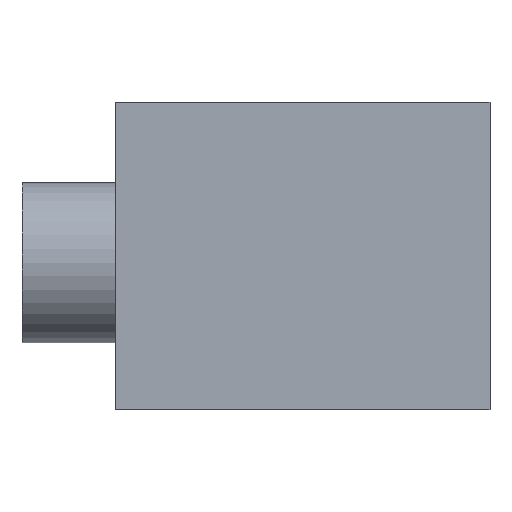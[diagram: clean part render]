
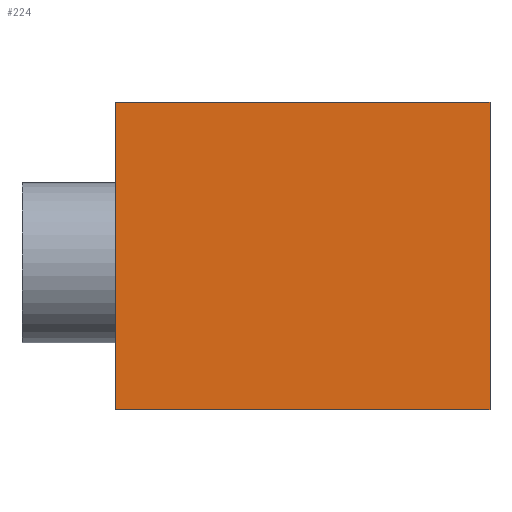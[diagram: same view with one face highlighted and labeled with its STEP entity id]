
A CAD part, top view. The second image highlights one B-rep face of the part: STEP entity #224.
In plain terms, the highlighted planar face has unit normal (0, 0, 1).
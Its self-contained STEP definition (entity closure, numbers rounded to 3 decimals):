
#47 = EDGE_CURVE('',#48,#50,#52,.T.);
#48 = VERTEX_POINT('',#49);
#49 = CARTESIAN_POINT('',(0.,-5.5,6.));
#50 = VERTEX_POINT('',#51);
#51 = CARTESIAN_POINT('',(0.,6.,6.));
#52 = LINE('',#53,#54);
#53 = CARTESIAN_POINT('',(0.,-5.5,6.));
#54 = VECTOR('',#55,1.);
#55 = DIRECTION('',(0.,1.,0.));
#141 = EDGE_CURVE('',#50,#142,#144,.T.);
#142 = VERTEX_POINT('',#143);
#143 = CARTESIAN_POINT('',(14.,6.,6.));
#144 = LINE('',#145,#146);
#145 = CARTESIAN_POINT('',(0.,6.,6.));
#146 = VECTOR('',#147,1.);
#147 = DIRECTION('',(1.,0.,-0.));
#166 = VERTEX_POINT('',#167);
#167 = CARTESIAN_POINT('',(14.,-5.5,6.));
#180 = EDGE_CURVE('',#166,#142,#181,.T.);
#181 = LINE('',#182,#183);
#182 = CARTESIAN_POINT('',(14.,-5.5,6.));
#183 = VECTOR('',#184,1.);
#184 = DIRECTION('',(-0.,1.,0.));
#213 = EDGE_CURVE('',#48,#166,#214,.T.);
#214 = LINE('',#215,#216);
#215 = CARTESIAN_POINT('',(0.,-5.5,6.));
#216 = VECTOR('',#217,1.);
#217 = DIRECTION('',(1.,0.,-0.));
#224 = ADVANCED_FACE('',(#225),#231,.T.);
#225 = FACE_BOUND('',#226,.T.);
#226 = EDGE_LOOP('',(#227,#228,#229,#230));
#227 = ORIENTED_EDGE('',*,*,#47,.F.);
#228 = ORIENTED_EDGE('',*,*,#213,.T.);
#229 = ORIENTED_EDGE('',*,*,#180,.T.);
#230 = ORIENTED_EDGE('',*,*,#141,.F.);
#231 = PLANE('',#232);
#232 = AXIS2_PLACEMENT_3D('',#233,#234,#235);
#233 = CARTESIAN_POINT('',(0.,-5.5,6.));
#234 = DIRECTION('',(0.,0.,1.));
#235 = DIRECTION('',(1.,0.,-0.));
